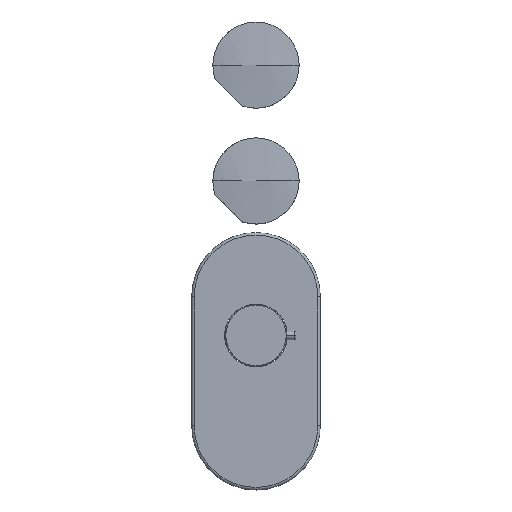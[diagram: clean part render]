
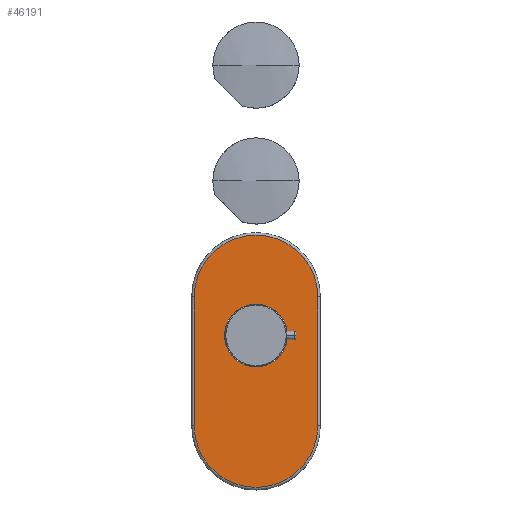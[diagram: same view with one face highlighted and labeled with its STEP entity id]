
A CAD part, top view. The second image highlights one B-rep face of the part: STEP entity #46191.
In plain terms, the highlighted planar face has unit normal (0, 0, 1).
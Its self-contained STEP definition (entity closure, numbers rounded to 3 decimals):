
#45782=DIRECTION('',(0.,1.,0.));
#45783=VECTOR('',#45782,100.);
#45784=CARTESIAN_POINT('',(48.,-70.,7.));
#45785=LINE('',#45784,#45783);
#45786=CARTESIAN_POINT('',(0.,-70.,7.));
#45787=DIRECTION('',(0.,0.,1.));
#45788=DIRECTION('',(-1.,0.,0.));
#45789=AXIS2_PLACEMENT_3D('',#45786,#45787,#45788);
#45791=DIRECTION('',(0.,-1.,0.));
#45792=VECTOR('',#45791,100.);
#45793=CARTESIAN_POINT('',(-48.,30.,7.));
#45794=LINE('',#45793,#45792);
#45795=CARTESIAN_POINT('',(0.,30.,7.));
#45796=DIRECTION('',(0.,0.,1.));
#45797=DIRECTION('',(1.,0.,0.));
#45798=AXIS2_PLACEMENT_3D('',#45795,#45796,#45797);
#45800=CARTESIAN_POINT('',(0.,0.,7.));
#45801=DIRECTION('',(0.,0.,-1.));
#45802=DIRECTION('',(-1.,0.,0.));
#45803=AXIS2_PLACEMENT_3D('',#45800,#45801,#45802);
#45805=CARTESIAN_POINT('',(0.,0.,7.));
#45806=DIRECTION('',(0.,0.,-1.));
#45807=DIRECTION('',(1.,0.,0.));
#45808=AXIS2_PLACEMENT_3D('',#45805,#45806,#45807);
#46061=CARTESIAN_POINT('',(-24.4,0.,7.));
#46063=VERTEX_POINT('',#46061);
#46065=CARTESIAN_POINT('',(24.4,0.,7.));
#46067=VERTEX_POINT('',#46065);
#46100=CARTESIAN_POINT('',(48.,-70.,7.));
#46101=CARTESIAN_POINT('',(48.,30.,7.));
#46102=VERTEX_POINT('',#46100);
#46103=VERTEX_POINT('',#46101);
#46112=CARTESIAN_POINT('',(-48.,30.,7.));
#46113=CARTESIAN_POINT('',(-48.,-70.,7.));
#46114=VERTEX_POINT('',#46112);
#46115=VERTEX_POINT('',#46113);
#46171=CARTESIAN_POINT('',(0.,-20.,7.));
#46172=DIRECTION('',(0.,0.,1.));
#46173=DIRECTION('',(0.,-1.,0.));
#46174=AXIS2_PLACEMENT_3D('',#46171,#46172,#46173);
#46175=PLANE('',#46174);
#46177=ORIENTED_EDGE('',*,*,#46176,.F.);
#46179=ORIENTED_EDGE('',*,*,#46178,.F.);
#46181=ORIENTED_EDGE('',*,*,#46180,.F.);
#46182=ORIENTED_EDGE('',*,*,#46161,.F.);
#46183=EDGE_LOOP('',(#46177,#46179,#46181,#46182));
#46184=FACE_OUTER_BOUND('',#46183,.F.);
#46186=ORIENTED_EDGE('',*,*,#46185,.F.);
#46188=ORIENTED_EDGE('',*,*,#46187,.F.);
#46189=EDGE_LOOP('',(#46186,#46188));
#46190=FACE_BOUND('',#46189,.F.);
#46191=ADVANCED_FACE('',(#46184,#46190),#46175,.T.);
#45790=CIRCLE('',#45789,48.);
#45799=CIRCLE('',#45798,48.);
#45804=CIRCLE('',#45803,24.4);
#45809=CIRCLE('',#45808,24.4);
#46161=EDGE_CURVE('',#46103,#46114,#45799,.T.);
#46176=EDGE_CURVE('',#46102,#46103,#45785,.T.);
#46178=EDGE_CURVE('',#46115,#46102,#45790,.T.);
#46180=EDGE_CURVE('',#46114,#46115,#45794,.T.);
#46185=EDGE_CURVE('',#46063,#46067,#45804,.T.);
#46187=EDGE_CURVE('',#46067,#46063,#45809,.T.);
